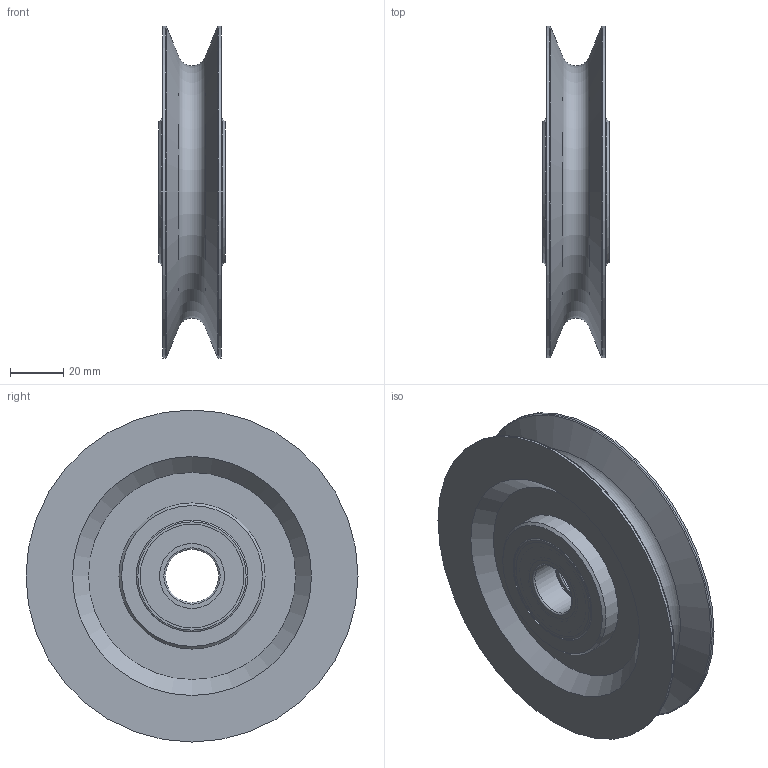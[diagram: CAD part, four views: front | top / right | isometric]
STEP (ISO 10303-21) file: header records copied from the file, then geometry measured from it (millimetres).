
FILE_DESCRIPTION(/* description */ ('Seilrolle ø125 Kugellager komplett'),/* implementation_level */ '2;1');
FILE_NAME(/* name */ 'Z:\Workspace\03 Seilrollen\1.402 Seilrollen Kugellager\1.402.04 Seilrolle ø125 Kugellager\1.402.04 Seilrolle ø125 Kugellager komplett.stp',/* time_stamp */ '2021-10-04T12:40:45+02:00',/* author */ ('cad-user'),/* organization */ (''),/* preprocessor_version */ 'ST-DEVELOPER v18',/* originating_system */ 'Autodesk Inventor 2020',/* authorisation */ '');
FILE_SCHEMA (('AUTOMOTIVE_DESIGN { 1 0 10303 214 3 1 1 }'));
Length unit declared in the file: millimetre
Products named in the file (8): 1.402.04 Seilrolle ø125 Kugellager komplett; 1.402.04 Seilrolle ø125 Kugellager; DIN625 - 6004-2RS - P63; din625_-_6004-2rs_-_p63_0_05; din625_-_6004-2rs_-_p63_0_04; din625_-_6004-2rs_-_p63_0_03; din625_-_6004-2rs_-_p63_0_02; din625_-_6004-2rs_-_p63_0_01
Assembly tree (8 placements, depth 3):
  1.402.04 Seilrolle ø125 Kugellager komplett
    1.402.04 Seilrolle ø125 Kugellager
    DIN625 - 6004-2RS - P63  x2
      din625_-_6004-2rs_-_p63_0_05
      din625_-_6004-2rs_-_p63_0_04
      din625_-_6004-2rs_-_p63_0_03
      din625_-_6004-2rs_-_p63_0_02
      din625_-_6004-2rs_-_p63_0_01
Bounding box: 25 x 125 x 125 mm (x, y, z)
Volume: 152352 mm3; surface area: 64105.4 mm2
Topology: 11 solids, 11 shells, 120 faces, 344 edges, 256 vertices
Faces by surface type: cylinder 35, plane 32, torus 31, sphere 16, cone 6
Full cylindrical faces by diameter (mm): 20 x2, 24.4 x8, 26.6 x4, 35.4 x4, 36 x1, 39 x8, 42 x4, 55 x2, 125 x2
Entity records: 3261 total; most frequent: CARTESIAN_POINT 976, DIRECTION 465, ORIENTED_EDGE 380, AXIS2_PLACEMENT_3D 219, EDGE_CURVE 190, VERTEX_POINT 154, CIRCLE 131, EDGE_LOOP 108
